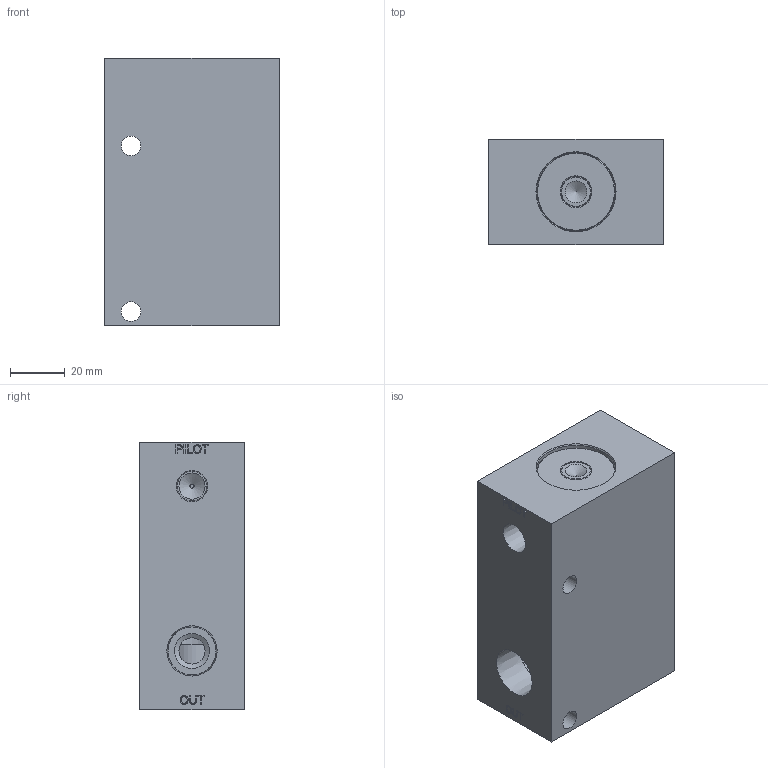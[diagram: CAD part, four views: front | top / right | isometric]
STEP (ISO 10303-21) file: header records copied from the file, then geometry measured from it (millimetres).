
FILE_DESCRIPTION(/* description */ (''),/* implementation_level */ '2;1');
FILE_NAME(/* name */ 'L:\ALADCO\Advertising\3D Content\Valves\Step Files - 2014-11-19 thru Present\31500X.stp',/* time_stamp */ '2014-11-19T14:19:35-06:00',/* author */ ('dmatz'),/* organization */ ('Aladdin Eng. & Manf. Inc.'),/* preprocessor_version */ 'ST-DEVELOPER v15.2',/* originating_system */ 'Autodesk Inventor 2014',/* authorisation */ '0 in^3');
FILE_SCHEMA (('AUTOMOTIVE_DESIGN { 1 0 10303 214 3 1 1 }'));
Length unit declared in the file: inch
Products named in the file (6): 311041; 301076; 311015; 311020; 301015; 315001
Bounding box: 63.5 x 38.1 x 97.23 mm (x, y, z)
Volume: 196763.9 mm3; surface area: 42832.3 mm2
Topology: 5 solids, 5 shells, 204 faces, 461 edges, 301 vertices
Faces by surface type: plane 104, cylinder 37, bspline 26, cone 24, torus 13
Full cylindrical faces by diameter (mm): 1.499 x1, 3.175 x1, 5.156 x1, 6.35 x2, 6.629 x1, 7.112 x2, 7.938 x1, 9.144 x1, 9.525 x3, 10.719 x1, 11.049 x2, 11.1 x1, 12.7 x3, 13.081 x1, 13.462 x1, 15.081 x1, 17.475 x2, 17.577 x1, 22.149 x1, 24.409 x1, 24.435 x1, 25.4 x2, 28.524 x4, 28.575 x2
Entity records: 5879 total; most frequent: CARTESIAN_POINT 1501, DIRECTION 788, ORIENTED_EDGE 728, EDGE_CURVE 364, EDGE_LOOP 328, AXIS2_PLACEMENT_3D 294, VERTEX_POINT 278, ADVANCED_FACE 204
